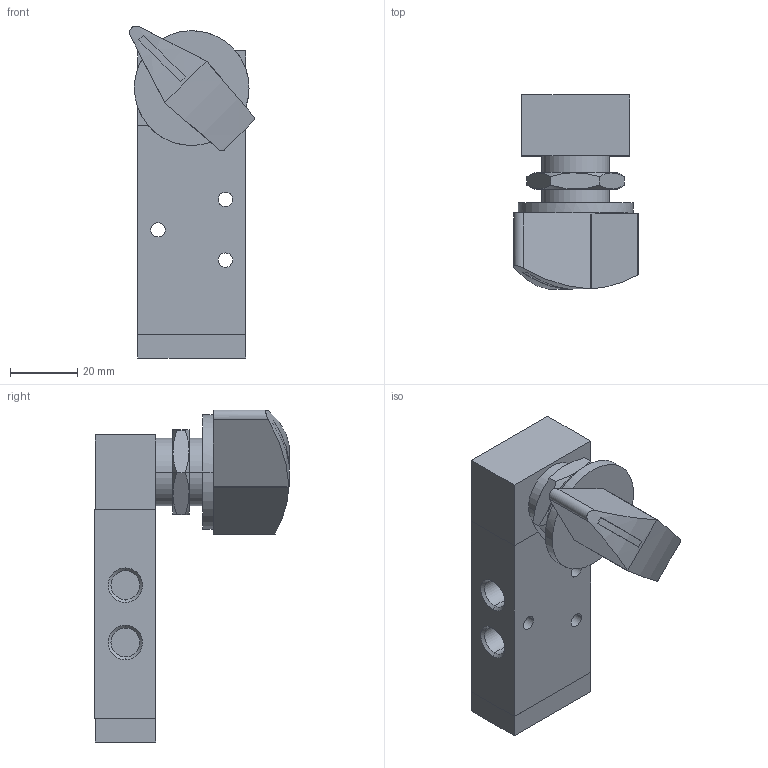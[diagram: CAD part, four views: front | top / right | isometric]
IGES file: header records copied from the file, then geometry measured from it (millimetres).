
Global section: file name: No Iges File Name specified; native system: AutoDesk Inventor R11.0; preprocessor: AutoDesk Inventor Iges Exporter R11.0; author: No Author specified; organization: No Organization specified; date: 20061219.114401; units: millimetre
Bounding box: 36.99 x 57.51 x 98.4 mm (x, y, z)
Volume: 69701.1 mm3; surface area: 17836.8 mm2
Topology: 2 solids, 2 shells, 91 faces, 210 edges, 133 vertices
Faces by surface type: plane 38, bspline 30, revolution 10, cylinder 9, cone 4
